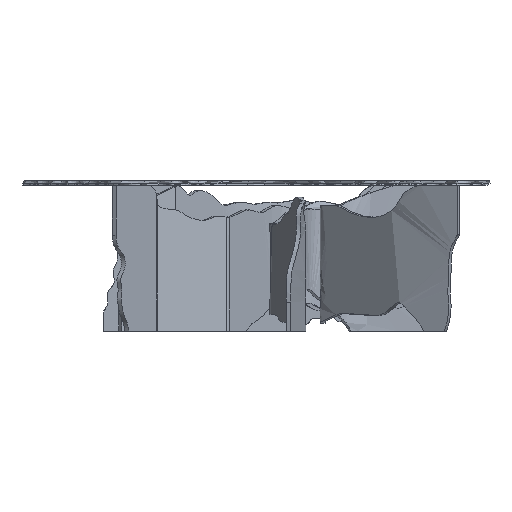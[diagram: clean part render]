
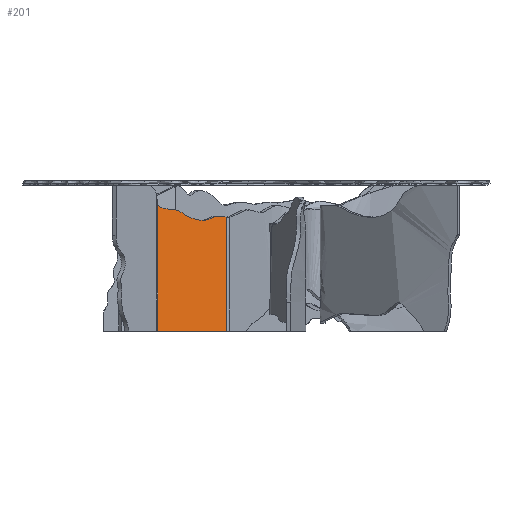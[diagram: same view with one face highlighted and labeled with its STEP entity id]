
A CAD part, left-side view. The second image highlights one B-rep face of the part: STEP entity #201.
In plain terms, the highlighted planar face has unit normal (-0.866, -0.5, 0).
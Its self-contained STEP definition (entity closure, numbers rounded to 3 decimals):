
#201=ADVANCED_FACE('',(#612),#5673,.T.);
#612=FACE_OUTER_BOUND('',#1023,.T.);
#1023=EDGE_LOOP('',(#1663,#1664,#1665,#1666));
#1663=ORIENTED_EDGE('',*,*,#3362,.F.);
#1664=ORIENTED_EDGE('',*,*,#3380,.T.);
#1665=ORIENTED_EDGE('',*,*,#3374,.T.);
#1666=ORIENTED_EDGE('',*,*,#3375,.T.);
#3362=EDGE_CURVE('',#5171,#5172,#4854,.T.);
#3374=EDGE_CURVE('',#5179,#5180,#4861,.T.);
#3375=EDGE_CURVE('',#5180,#5172,#4862,.T.);
#3380=EDGE_CURVE('',#5171,#5179,#4864,.T.);
#4854=B_SPLINE_CURVE_WITH_KNOTS('',3,(#8283,#8284,#8285,#8286),
 .UNSPECIFIED.,.F.,.F.,(4,4),(0.,29.745),.UNSPECIFIED.);
#4861=B_SPLINE_CURVE_WITH_KNOTS('',3,(#8322,#8323,#8324,#8325),
 .UNSPECIFIED.,.F.,.F.,(4,4),(0.,33.01),.UNSPECIFIED.);
#4862=B_SPLINE_CURVE_WITH_KNOTS('',3,(#8326,#8327,#8328,#8329),
 .UNSPECIFIED.,.F.,.F.,(4,4),(0.,20.598),.UNSPECIFIED.);
#4864=B_SPLINE_CURVE_WITH_KNOTS('',3,(#8398,#8399,#8400,#8401,#8402,#8403,
#8404,#8405,#8406,#8407,#8408,#8409,#8410,#8411,#8412,#8413,#8414,#8415,
#8416,#8417,#8418,#8419,#8420,#8421,#8422,#8423,#8424,#8425,#8426,#8427,
#8428,#8429,#8430,#8431,#8432,#8433,#8434,#8435,#8436,#8437,#8438,#8439,
#8440,#8441,#8442,#8443,#8444,#8445,#8446,#8447,#8448,#8449,#8450,#8451,
#8452,#8453,#8454,#8455),.UNSPECIFIED.,.F.,.F.,(4,3,3,3,3,3,3,3,3,3,3,3,
3,3,3,3,3,3,3,4),(85.76,85.827,87.599,88.483,
89.442,91.144,92.177,93.431,94.907,
97.27,98.229,100.074,101.107,101.989,
102.432,103.837,104.644,106.131,107.307,
107.412),.UNSPECIFIED.);
#5171=VERTEX_POINT('',#8249);
#5172=VERTEX_POINT('',#8250);
#5179=VERTEX_POINT('',#8257);
#5180=VERTEX_POINT('',#8258);
#5673=PLANE('',#6057);
#6057=AXIS2_PLACEMENT_3D('',#7759,#6140,$);
#6140=DIRECTION('',(-0.866,-0.5,0.));
#7759=CARTESIAN_POINT('',(664.01,885.851,-34.21));
#8249=CARTESIAN_POINT('',(778.121,688.205,297.448));
#8250=CARTESIAN_POINT('',(778.121,688.205,0.));
#8257=CARTESIAN_POINT('',(675.129,866.593,330.103));
#8258=CARTESIAN_POINT('',(675.129,866.593,0.));
#8283=CARTESIAN_POINT('',(778.121,688.205,297.448));
#8284=CARTESIAN_POINT('',(778.121,688.205,198.299));
#8285=CARTESIAN_POINT('',(778.121,688.205,99.149));
#8286=CARTESIAN_POINT('',(778.121,688.205,0.));
#8322=CARTESIAN_POINT('',(675.129,866.593,330.103));
#8323=CARTESIAN_POINT('',(675.129,866.593,220.069));
#8324=CARTESIAN_POINT('',(675.129,866.593,110.034));
#8325=CARTESIAN_POINT('',(675.129,866.593,0.));
#8326=CARTESIAN_POINT('',(675.129,866.593,0.));
#8327=CARTESIAN_POINT('',(709.459,807.13,0.));
#8328=CARTESIAN_POINT('',(743.79,747.668,0.));
#8329=CARTESIAN_POINT('',(778.121,688.205,0.));
#8398=CARTESIAN_POINT('',(778.121,688.205,297.448));
#8399=CARTESIAN_POINT('',(778.01,688.398,297.467));
#8400=CARTESIAN_POINT('',(777.898,688.591,297.487));
#8401=CARTESIAN_POINT('',(777.787,688.783,297.508));
#8402=CARTESIAN_POINT('',(774.843,693.883,298.046));
#8403=CARTESIAN_POINT('',(771.927,698.934,299.132));
#8404=CARTESIAN_POINT('',(768.979,704.04,299.567));
#8405=CARTESIAN_POINT('',(767.509,706.585,299.784));
#8406=CARTESIAN_POINT('',(766.032,709.145,299.839));
#8407=CARTESIAN_POINT('',(764.56,711.693,299.622));
#8408=CARTESIAN_POINT('',(762.965,714.455,299.387));
#8409=CARTESIAN_POINT('',(761.378,717.205,298.833));
#8410=CARTESIAN_POINT('',(759.85,719.851,297.922));
#8411=CARTESIAN_POINT('',(757.143,724.541,296.306));
#8412=CARTESIAN_POINT('',(754.622,728.906,293.569));
#8413=CARTESIAN_POINT('',(751.944,733.546,291.751));
#8414=CARTESIAN_POINT('',(750.314,736.369,290.644));
#8415=CARTESIAN_POINT('',(748.625,739.293,289.878));
#8416=CARTESIAN_POINT('',(746.919,742.249,289.406));
#8417=CARTESIAN_POINT('',(744.847,745.837,288.832));
#8418=CARTESIAN_POINT('',(742.749,749.471,288.692));
#8419=CARTESIAN_POINT('',(740.661,753.088,288.893));
#8420=CARTESIAN_POINT('',(738.202,757.347,289.129));
#8421=CARTESIAN_POINT('',(735.757,761.582,289.838));
#8422=CARTESIAN_POINT('',(733.343,765.763,290.826));
#8423=CARTESIAN_POINT('',(729.482,772.45,292.407));
#8424=CARTESIAN_POINT('',(725.7,779.001,294.704));
#8425=CARTESIAN_POINT('',(722.074,785.282,297.784));
#8426=CARTESIAN_POINT('',(720.6,787.833,299.035));
#8427=CARTESIAN_POINT('',(719.153,790.34,300.416));
#8428=CARTESIAN_POINT('',(717.75,792.771,301.951));
#8429=CARTESIAN_POINT('',(715.05,797.447,304.904));
#8430=CARTESIAN_POINT('',(712.512,801.842,308.431));
#8431=CARTESIAN_POINT('',(709.772,806.589,311.232));
#8432=CARTESIAN_POINT('',(708.239,809.244,312.799));
#8433=CARTESIAN_POINT('',(706.643,812.009,314.139));
#8434=CARTESIAN_POINT('',(704.991,814.869,315.103));
#8435=CARTESIAN_POINT('',(703.58,817.313,315.926));
#8436=CARTESIAN_POINT('',(702.129,819.827,316.474));
#8437=CARTESIAN_POINT('',(700.668,822.358,316.812));
#8438=CARTESIAN_POINT('',(699.932,823.632,316.983));
#8439=CARTESIAN_POINT('',(699.194,824.91,317.1));
#8440=CARTESIAN_POINT('',(698.456,826.189,317.205));
#8441=CARTESIAN_POINT('',(696.118,830.239,317.536));
#8442=CARTESIAN_POINT('',(693.775,834.297,317.738));
#8443=CARTESIAN_POINT('',(691.439,838.343,318.145));
#8444=CARTESIAN_POINT('',(690.095,840.671,318.38));
#8445=CARTESIAN_POINT('',(688.753,842.995,318.682));
#8446=CARTESIAN_POINT('',(687.421,845.302,319.086));
#8447=CARTESIAN_POINT('',(684.973,849.542,319.829));
#8448=CARTESIAN_POINT('',(682.557,853.727,320.916));
#8449=CARTESIAN_POINT('',(680.256,857.713,322.839));
#8450=CARTESIAN_POINT('',(678.449,860.842,324.35));
#8451=CARTESIAN_POINT('',(676.713,863.849,326.376));
#8452=CARTESIAN_POINT('',(675.457,866.024,329.292));
#8453=CARTESIAN_POINT('',(675.344,866.22,329.555));
#8454=CARTESIAN_POINT('',(675.234,866.41,329.826));
#8455=CARTESIAN_POINT('',(675.129,866.593,330.103));
